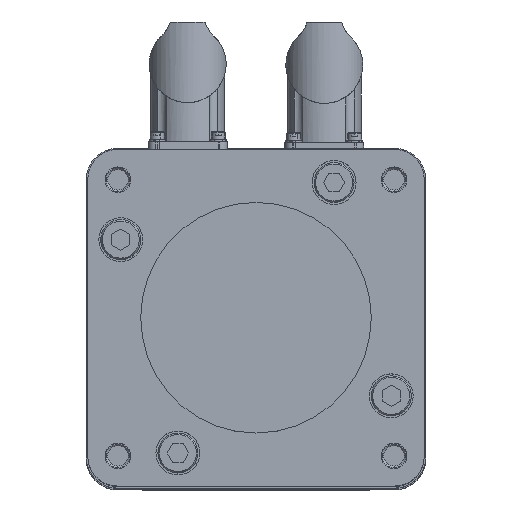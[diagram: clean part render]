
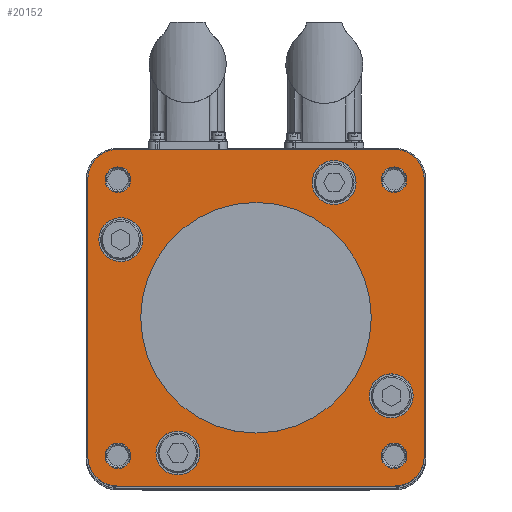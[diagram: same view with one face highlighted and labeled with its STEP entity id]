
A CAD part, top view. The second image highlights one B-rep face of the part: STEP entity #20152.
In plain terms, the highlighted planar face has unit normal (0, 0, 1).
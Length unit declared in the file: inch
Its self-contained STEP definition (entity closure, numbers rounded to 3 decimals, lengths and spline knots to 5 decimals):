
#3369=DIRECTION('',(0.,-1.,0.));
#3370=VECTOR('',#3369,3.55);
#3371=CARTESIAN_POINT('',(2.155,1.775,6.08));
#3372=LINE('',#3371,#3370);
#3373=CARTESIAN_POINT('',(-1.775,-1.775,6.08));
#3374=DIRECTION('',(0.,0.,1.));
#3375=DIRECTION('',(-1.,0.,0.));
#3376=AXIS2_PLACEMENT_3D('',#3373,#3374,#3375);
#3378=CARTESIAN_POINT('',(-1.775,1.775,6.08));
#3379=DIRECTION('',(0.,0.,1.));
#3380=DIRECTION('',(0.,1.,0.));
#3381=AXIS2_PLACEMENT_3D('',#3378,#3379,#3380);
#3383=CARTESIAN_POINT('',(1.775,1.775,6.08));
#3384=DIRECTION('',(0.,0.,1.));
#3385=DIRECTION('',(1.,0.,0.));
#3386=AXIS2_PLACEMENT_3D('',#3383,#3384,#3385);
#3388=CARTESIAN_POINT('',(1.775,-1.775,6.08));
#3389=DIRECTION('',(0.,0.,1.));
#3390=DIRECTION('',(0.,-1.,0.));
#3391=AXIS2_PLACEMENT_3D('',#3388,#3389,#3390);
#3393=CARTESIAN_POINT('',(-1.,-1.73205,6.08));
#3394=DIRECTION('',(0.,0.,-1.));
#3395=DIRECTION('',(-1.,0.,0.));
#3396=AXIS2_PLACEMENT_3D('',#3393,#3394,#3395);
#3398=CARTESIAN_POINT('',(-1.,-1.73205,6.08));
#3399=DIRECTION('',(0.,0.,-1.));
#3400=DIRECTION('',(1.,0.,0.));
#3401=AXIS2_PLACEMENT_3D('',#3398,#3399,#3400);
#3403=CARTESIAN_POINT('',(1.,1.73205,6.08));
#3404=DIRECTION('',(0.,0.,-1.));
#3405=DIRECTION('',(-1.,0.,0.));
#3406=AXIS2_PLACEMENT_3D('',#3403,#3404,#3405);
#3408=CARTESIAN_POINT('',(1.,1.73205,6.08));
#3409=DIRECTION('',(0.,0.,-1.));
#3410=DIRECTION('',(1.,0.,0.));
#3411=AXIS2_PLACEMENT_3D('',#3408,#3409,#3410);
#3413=CARTESIAN_POINT('',(-1.76777,1.76777,6.08));
#3414=DIRECTION('',(0.,0.,-1.));
#3415=DIRECTION('',(-1.,0.,0.));
#3416=AXIS2_PLACEMENT_3D('',#3413,#3414,#3415);
#3418=CARTESIAN_POINT('',(-1.76777,1.76777,6.08));
#3419=DIRECTION('',(0.,0.,-1.));
#3420=DIRECTION('',(1.,0.,0.));
#3421=AXIS2_PLACEMENT_3D('',#3418,#3419,#3420);
#3423=CARTESIAN_POINT('',(-1.76777,-1.76777,6.08));
#3424=DIRECTION('',(0.,0.,-1.));
#3425=DIRECTION('',(-1.,0.,0.));
#3426=AXIS2_PLACEMENT_3D('',#3423,#3424,#3425);
#3428=CARTESIAN_POINT('',(-1.76777,-1.76777,6.08));
#3429=DIRECTION('',(0.,0.,-1.));
#3430=DIRECTION('',(1.,0.,0.));
#3431=AXIS2_PLACEMENT_3D('',#3428,#3429,#3430);
#3433=CARTESIAN_POINT('',(0.,0.,6.08));
#3434=DIRECTION('',(0.,0.,-1.));
#3435=DIRECTION('',(1.,0.,0.));
#3436=AXIS2_PLACEMENT_3D('',#3433,#3434,#3435);
#3438=CARTESIAN_POINT('',(0.,0.,6.08));
#3439=DIRECTION('',(0.,0.,-1.));
#3440=DIRECTION('',(-1.,0.,0.));
#3441=AXIS2_PLACEMENT_3D('',#3438,#3439,#3440);
#3443=CARTESIAN_POINT('',(1.76777,1.76777,6.08));
#3444=DIRECTION('',(0.,0.,-1.));
#3445=DIRECTION('',(-1.,0.,0.));
#3446=AXIS2_PLACEMENT_3D('',#3443,#3444,#3445);
#3448=CARTESIAN_POINT('',(1.76777,1.76777,6.08));
#3449=DIRECTION('',(0.,0.,-1.));
#3450=DIRECTION('',(1.,0.,0.));
#3451=AXIS2_PLACEMENT_3D('',#3448,#3449,#3450);
#3453=CARTESIAN_POINT('',(1.76777,-1.76777,6.08));
#3454=DIRECTION('',(0.,0.,-1.));
#3455=DIRECTION('',(-1.,0.,0.));
#3456=AXIS2_PLACEMENT_3D('',#3453,#3454,#3455);
#3458=CARTESIAN_POINT('',(1.76777,-1.76777,6.08));
#3459=DIRECTION('',(0.,0.,-1.));
#3460=DIRECTION('',(1.,0.,0.));
#3461=AXIS2_PLACEMENT_3D('',#3458,#3459,#3460);
#3463=CARTESIAN_POINT('',(1.73205,-1.,6.08));
#3464=DIRECTION('',(0.,0.,-1.));
#3465=DIRECTION('',(-1.,0.,0.));
#3466=AXIS2_PLACEMENT_3D('',#3463,#3464,#3465);
#3468=CARTESIAN_POINT('',(1.73205,-1.,6.08));
#3469=DIRECTION('',(0.,0.,-1.));
#3470=DIRECTION('',(1.,0.,0.));
#3471=AXIS2_PLACEMENT_3D('',#3468,#3469,#3470);
#3473=CARTESIAN_POINT('',(-1.73205,1.,6.08));
#3474=DIRECTION('',(0.,0.,-1.));
#3475=DIRECTION('',(-1.,0.,0.));
#3476=AXIS2_PLACEMENT_3D('',#3473,#3474,#3475);
#3478=CARTESIAN_POINT('',(-1.73205,1.,6.08));
#3479=DIRECTION('',(0.,0.,-1.));
#3480=DIRECTION('',(1.,0.,0.));
#3481=AXIS2_PLACEMENT_3D('',#3478,#3479,#3480);
#3483=DIRECTION('',(-1.,0.,0.));
#3484=VECTOR('',#3483,3.55);
#3485=CARTESIAN_POINT('',(1.775,-2.155,6.08));
#3486=LINE('',#3485,#3484);
#3495=DIRECTION('',(0.,1.,0.));
#3496=VECTOR('',#3495,3.55);
#3497=CARTESIAN_POINT('',(-2.155,-1.775,6.08));
#3498=LINE('',#3497,#3496);
#3507=DIRECTION('',(1.,0.,0.));
#3508=VECTOR('',#3507,3.55);
#3509=CARTESIAN_POINT('',(-1.775,2.155,6.08));
#3510=LINE('',#3509,#3508);
#17312=CARTESIAN_POINT('',(-1.93115,-1.76777,6.08));
#17313=CARTESIAN_POINT('',(-1.60438,-1.76777,6.08));
#17314=VERTEX_POINT('',#17312);
#17315=VERTEX_POINT('',#17313);
#17316=CARTESIAN_POINT('',(1.60438,-1.76777,6.08));
#17317=CARTESIAN_POINT('',(1.93115,-1.76777,6.08));
#17318=VERTEX_POINT('',#17316);
#17319=VERTEX_POINT('',#17317);
#17320=CARTESIAN_POINT('',(0.71874,1.73205,6.08));
#17321=CARTESIAN_POINT('',(1.28126,1.73205,6.08));
#17322=VERTEX_POINT('',#17320);
#17323=VERTEX_POINT('',#17321);
#17324=CARTESIAN_POINT('',(-1.28126,-1.73205,6.08));
#17325=CARTESIAN_POINT('',(-0.71874,-1.73205,6.08));
#17326=VERTEX_POINT('',#17324);
#17327=VERTEX_POINT('',#17325);
#17333=CARTESIAN_POINT('',(1.45079,-1.,6.08));
#17334=CARTESIAN_POINT('',(2.01331,-1.,6.08));
#17335=VERTEX_POINT('',#17333);
#17336=VERTEX_POINT('',#17334);
#17337=CARTESIAN_POINT('',(1.47638,0.,6.08));
#17338=CARTESIAN_POINT('',(-1.47638,0.,6.08));
#17339=VERTEX_POINT('',#17337);
#17340=VERTEX_POINT('',#17338);
#17341=CARTESIAN_POINT('',(-2.01331,1.,6.08));
#17342=CARTESIAN_POINT('',(-1.45079,1.,6.08));
#17343=VERTEX_POINT('',#17341);
#17344=VERTEX_POINT('',#17342);
#17345=CARTESIAN_POINT('',(-1.93115,1.76777,6.08));
#17346=CARTESIAN_POINT('',(-1.60438,1.76777,6.08));
#17347=VERTEX_POINT('',#17345);
#17348=VERTEX_POINT('',#17346);
#17349=CARTESIAN_POINT('',(1.60438,1.76777,6.08));
#17350=CARTESIAN_POINT('',(1.93115,1.76777,6.08));
#17351=VERTEX_POINT('',#17349);
#17352=VERTEX_POINT('',#17350);
#17363=CARTESIAN_POINT('',(-1.775,2.155,6.08));
#17364=CARTESIAN_POINT('',(-2.155,1.775,6.08));
#17365=VERTEX_POINT('',#17363);
#17366=VERTEX_POINT('',#17364);
#17367=CARTESIAN_POINT('',(2.155,1.775,6.08));
#17368=CARTESIAN_POINT('',(2.155,-1.775,6.08));
#17369=VERTEX_POINT('',#17367);
#17370=VERTEX_POINT('',#17368);
#17371=CARTESIAN_POINT('',(1.775,-2.155,6.08));
#17372=CARTESIAN_POINT('',(-1.775,-2.155,6.08));
#17373=VERTEX_POINT('',#17371);
#17374=VERTEX_POINT('',#17372);
#17407=CARTESIAN_POINT('',(1.775,2.155,6.08));
#17408=VERTEX_POINT('',#17407);
#17409=CARTESIAN_POINT('',(-2.155,-1.775,6.08));
#17410=VERTEX_POINT('',#17409);
#20076=CARTESIAN_POINT('',(2.155,2.155,6.08));
#20077=DIRECTION('',(0.,0.,-1.));
#20078=DIRECTION('',(-1.,0.,0.));
#20079=AXIS2_PLACEMENT_3D('',#20076,#20077,#20078);
#20080=PLANE('',#20079);
#20082=ORIENTED_EDGE('',*,*,#20081,.T.);
#20084=ORIENTED_EDGE('',*,*,#20083,.F.);
#20086=ORIENTED_EDGE('',*,*,#20085,.T.);
#20088=ORIENTED_EDGE('',*,*,#20087,.F.);
#20090=ORIENTED_EDGE('',*,*,#20089,.T.);
#20092=ORIENTED_EDGE('',*,*,#20091,.F.);
#20093=ORIENTED_EDGE('',*,*,#20066,.T.);
#20095=ORIENTED_EDGE('',*,*,#20094,.F.);
#20096=EDGE_LOOP('',(#20082,#20084,#20086,#20088,#20090,#20092,#20093,#20095));
#20097=FACE_OUTER_BOUND('',#20096,.F.);
#20099=ORIENTED_EDGE('',*,*,#20098,.F.);
#20101=ORIENTED_EDGE('',*,*,#20100,.F.);
#20102=EDGE_LOOP('',(#20099,#20101));
#20103=FACE_BOUND('',#20102,.F.);
#20105=ORIENTED_EDGE('',*,*,#20104,.F.);
#20107=ORIENTED_EDGE('',*,*,#20106,.F.);
#20108=EDGE_LOOP('',(#20105,#20107));
#20109=FACE_BOUND('',#20108,.F.);
#20111=ORIENTED_EDGE('',*,*,#20110,.F.);
#20113=ORIENTED_EDGE('',*,*,#20112,.F.);
#20114=EDGE_LOOP('',(#20111,#20113));
#20115=FACE_BOUND('',#20114,.F.);
#20117=ORIENTED_EDGE('',*,*,#20116,.F.);
#20119=ORIENTED_EDGE('',*,*,#20118,.F.);
#20120=EDGE_LOOP('',(#20117,#20119));
#20121=FACE_BOUND('',#20120,.F.);
#20123=ORIENTED_EDGE('',*,*,#20122,.F.);
#20125=ORIENTED_EDGE('',*,*,#20124,.F.);
#20126=EDGE_LOOP('',(#20123,#20125));
#20127=FACE_BOUND('',#20126,.F.);
#20129=ORIENTED_EDGE('',*,*,#20128,.F.);
#20131=ORIENTED_EDGE('',*,*,#20130,.F.);
#20132=EDGE_LOOP('',(#20129,#20131));
#20133=FACE_BOUND('',#20132,.F.);
#20135=ORIENTED_EDGE('',*,*,#20134,.F.);
#20137=ORIENTED_EDGE('',*,*,#20136,.F.);
#20138=EDGE_LOOP('',(#20135,#20137));
#20139=FACE_BOUND('',#20138,.F.);
#20141=ORIENTED_EDGE('',*,*,#20140,.F.);
#20143=ORIENTED_EDGE('',*,*,#20142,.F.);
#20144=EDGE_LOOP('',(#20141,#20143));
#20145=FACE_BOUND('',#20144,.F.);
#20147=ORIENTED_EDGE('',*,*,#20146,.F.);
#20149=ORIENTED_EDGE('',*,*,#20148,.F.);
#20150=EDGE_LOOP('',(#20147,#20149));
#20151=FACE_BOUND('',#20150,.F.);
#20152=ADVANCED_FACE('',(#20097,#20103,#20109,#20115,#20121,#20127,#20133,
#20139,#20145,#20151),#20080,.F.);
#3377=CIRCLE('',#3376,0.38);
#3382=CIRCLE('',#3381,0.38);
#3387=CIRCLE('',#3386,0.38);
#3392=CIRCLE('',#3391,0.38);
#3397=CIRCLE('',#3396,0.28126);
#3402=CIRCLE('',#3401,0.28126);
#3407=CIRCLE('',#3406,0.28126);
#3412=CIRCLE('',#3411,0.28126);
#3417=CIRCLE('',#3416,0.16339);
#3422=CIRCLE('',#3421,0.16339);
#3427=CIRCLE('',#3426,0.16339);
#3432=CIRCLE('',#3431,0.16339);
#3437=CIRCLE('',#3436,1.47638);
#3442=CIRCLE('',#3441,1.47638);
#3447=CIRCLE('',#3446,0.16339);
#3452=CIRCLE('',#3451,0.16339);
#3457=CIRCLE('',#3456,0.16339);
#3462=CIRCLE('',#3461,0.16339);
#3467=CIRCLE('',#3466,0.28126);
#3472=CIRCLE('',#3471,0.28126);
#3477=CIRCLE('',#3476,0.28126);
#3482=CIRCLE('',#3481,0.28126);
#20066=EDGE_CURVE('',#17369,#17370,#3372,.T.);
#20081=EDGE_CURVE('',#17373,#17374,#3486,.T.);
#20083=EDGE_CURVE('',#17410,#17374,#3377,.T.);
#20085=EDGE_CURVE('',#17410,#17366,#3498,.T.);
#20087=EDGE_CURVE('',#17365,#17366,#3382,.T.);
#20089=EDGE_CURVE('',#17365,#17408,#3510,.T.);
#20091=EDGE_CURVE('',#17369,#17408,#3387,.T.);
#20094=EDGE_CURVE('',#17373,#17370,#3392,.T.);
#20098=EDGE_CURVE('',#17326,#17327,#3397,.T.);
#20100=EDGE_CURVE('',#17327,#17326,#3402,.T.);
#20104=EDGE_CURVE('',#17322,#17323,#3407,.T.);
#20106=EDGE_CURVE('',#17323,#17322,#3412,.T.);
#20110=EDGE_CURVE('',#17347,#17348,#3417,.T.);
#20112=EDGE_CURVE('',#17348,#17347,#3422,.T.);
#20116=EDGE_CURVE('',#17314,#17315,#3427,.T.);
#20118=EDGE_CURVE('',#17315,#17314,#3432,.T.);
#20122=EDGE_CURVE('',#17339,#17340,#3437,.T.);
#20124=EDGE_CURVE('',#17340,#17339,#3442,.T.);
#20128=EDGE_CURVE('',#17351,#17352,#3447,.T.);
#20130=EDGE_CURVE('',#17352,#17351,#3452,.T.);
#20134=EDGE_CURVE('',#17318,#17319,#3457,.T.);
#20136=EDGE_CURVE('',#17319,#17318,#3462,.T.);
#20140=EDGE_CURVE('',#17335,#17336,#3467,.T.);
#20142=EDGE_CURVE('',#17336,#17335,#3472,.T.);
#20146=EDGE_CURVE('',#17343,#17344,#3477,.T.);
#20148=EDGE_CURVE('',#17344,#17343,#3482,.T.);
